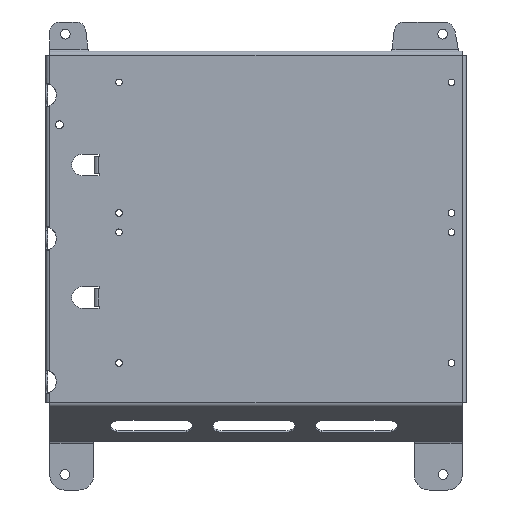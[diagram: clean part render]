
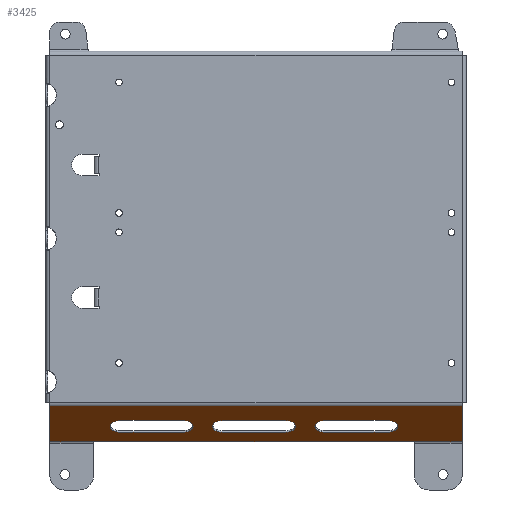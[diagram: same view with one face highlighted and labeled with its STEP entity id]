
A CAD part, front view. The second image highlights one B-rep face of the part: STEP entity #3425.
In plain terms, the highlighted planar face has unit normal (0, -0.602, -0.799).
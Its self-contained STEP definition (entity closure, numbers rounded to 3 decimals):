
#110=PLANE('',#3743);
#284=LINE('',#5351,#570);
#289=LINE('',#5365,#575);
#292=LINE('',#5375,#578);
#297=LINE('',#5389,#583);
#302=LINE('',#5407,#588);
#306=LINE('',#5418,#592);
#333=LINE('',#5513,#619);
#334=LINE('',#5515,#620);
#335=LINE('',#5516,#621);
#336=LINE('',#5518,#622);
#337=LINE('',#5520,#623);
#338=LINE('',#5521,#624);
#570=VECTOR('',#4325,10.);
#575=VECTOR('',#4338,10.);
#578=VECTOR('',#4349,10.);
#583=VECTOR('',#4362,10.);
#588=VECTOR('',#4381,10.);
#592=VECTOR('',#4393,10.);
#619=VECTOR('',#4494,10.);
#620=VECTOR('',#4495,10.);
#621=VECTOR('',#4496,10.);
#622=VECTOR('',#4497,10.);
#623=VECTOR('',#4498,10.);
#624=VECTOR('',#4499,10.);
#750=FACE_BOUND('',#1101,.T.);
#751=FACE_BOUND('',#1102,.T.);
#752=FACE_BOUND('',#1103,.T.);
#890=FACE_OUTER_BOUND('',#1100,.T.);
#1100=EDGE_LOOP('',(#2696,#2697,#2698,#2699,#2700,#2701));
#1101=EDGE_LOOP('',(#2702,#2703,#2704,#2705));
#1102=EDGE_LOOP('',(#2706,#2707,#2708,#2709));
#1103=EDGE_LOOP('',(#2710,#2711,#2712,#2713));
#1336=CIRCLE('',#3685,10.);
#1338=CIRCLE('',#3689,10.);
#1340=CIRCLE('',#3693,10.);
#1342=CIRCLE('',#3697,10.);
#1344=CIRCLE('',#3700,10.);
#1346=CIRCLE('',#3704,10.);
#1586=VERTEX_POINT('',#5349);
#1587=VERTEX_POINT('',#5350);
#1590=VERTEX_POINT('',#5358);
#1592=VERTEX_POINT('',#5364);
#1594=VERTEX_POINT('',#5373);
#1595=VERTEX_POINT('',#5374);
#1598=VERTEX_POINT('',#5382);
#1600=VERTEX_POINT('',#5388);
#1602=VERTEX_POINT('',#5397);
#1603=VERTEX_POINT('',#5398);
#1606=VERTEX_POINT('',#5406);
#1608=VERTEX_POINT('',#5412);
#1632=VERTEX_POINT('',#5482);
#1639=VERTEX_POINT('',#5511);
#1640=VERTEX_POINT('',#5512);
#1641=VERTEX_POINT('',#5514);
#1642=VERTEX_POINT('',#5517);
#1643=VERTEX_POINT('',#5519);
#1964=EDGE_CURVE('',#1586,#1587,#284,.T.);
#1968=EDGE_CURVE('',#1587,#1590,#1336,.T.);
#1971=EDGE_CURVE('',#1590,#1592,#289,.T.);
#1974=EDGE_CURVE('',#1592,#1586,#1338,.T.);
#1976=EDGE_CURVE('',#1594,#1595,#292,.T.);
#1980=EDGE_CURVE('',#1595,#1598,#1340,.T.);
#1983=EDGE_CURVE('',#1598,#1600,#297,.T.);
#1986=EDGE_CURVE('',#1600,#1594,#1342,.T.);
#1988=EDGE_CURVE('',#1602,#1603,#1344,.T.);
#1992=EDGE_CURVE('',#1606,#1602,#302,.T.);
#1995=EDGE_CURVE('',#1608,#1606,#1346,.T.);
#1998=EDGE_CURVE('',#1603,#1608,#306,.T.);
#2041=EDGE_CURVE('',#1639,#1640,#333,.T.);
#2042=EDGE_CURVE('',#1640,#1641,#334,.T.);
#2043=EDGE_CURVE('',#1641,#1632,#335,.T.);
#2044=EDGE_CURVE('',#1632,#1642,#336,.T.);
#2045=EDGE_CURVE('',#1643,#1642,#337,.T.);
#2046=EDGE_CURVE('',#1643,#1639,#338,.T.);
#2696=ORIENTED_EDGE('',*,*,#2041,.T.);
#2697=ORIENTED_EDGE('',*,*,#2042,.T.);
#2698=ORIENTED_EDGE('',*,*,#2043,.T.);
#2699=ORIENTED_EDGE('',*,*,#2044,.T.);
#2700=ORIENTED_EDGE('',*,*,#2045,.F.);
#2701=ORIENTED_EDGE('',*,*,#2046,.T.);
#2702=ORIENTED_EDGE('',*,*,#1964,.T.);
#2703=ORIENTED_EDGE('',*,*,#1968,.T.);
#2704=ORIENTED_EDGE('',*,*,#1971,.T.);
#2705=ORIENTED_EDGE('',*,*,#1974,.T.);
#2706=ORIENTED_EDGE('',*,*,#1976,.T.);
#2707=ORIENTED_EDGE('',*,*,#1980,.T.);
#2708=ORIENTED_EDGE('',*,*,#1983,.T.);
#2709=ORIENTED_EDGE('',*,*,#1986,.T.);
#2710=ORIENTED_EDGE('',*,*,#1988,.T.);
#2711=ORIENTED_EDGE('',*,*,#1998,.T.);
#2712=ORIENTED_EDGE('',*,*,#1995,.T.);
#2713=ORIENTED_EDGE('',*,*,#1992,.T.);
#3425=ADVANCED_FACE('',(#890,#750,#751,#752),#110,.F.);
#3685=AXIS2_PLACEMENT_3D('',#5359,#4331,#4332);
#3689=AXIS2_PLACEMENT_3D('',#5370,#4343,#4344);
#3693=AXIS2_PLACEMENT_3D('',#5383,#4355,#4356);
#3697=AXIS2_PLACEMENT_3D('',#5394,#4367,#4368);
#3700=AXIS2_PLACEMENT_3D('',#5399,#4373,#4374);
#3704=AXIS2_PLACEMENT_3D('',#5413,#4386,#4387);
#3743=AXIS2_PLACEMENT_3D('',#5510,#4492,#4493);
#4325=DIRECTION('',(1.,0.,0.));
#4331=DIRECTION('center_axis',(0.,0.602,
0.799));
#4332=DIRECTION('ref_axis',(0.,-0.799,0.602));
#4338=DIRECTION('',(-1.,0.,0.));
#4343=DIRECTION('center_axis',(0.,0.602,
0.799));
#4344=DIRECTION('ref_axis',(0.,0.799,-0.602));
#4349=DIRECTION('',(1.,0.,0.));
#4355=DIRECTION('center_axis',(0.,0.602,
0.799));
#4356=DIRECTION('ref_axis',(0.,-0.799,0.602));
#4362=DIRECTION('',(-1.,0.,0.));
#4367=DIRECTION('center_axis',(0.,0.602,
0.799));
#4368=DIRECTION('ref_axis',(0.,0.799,-0.602));
#4373=DIRECTION('center_axis',(0.,0.602,
0.799));
#4374=DIRECTION('ref_axis',(0.,0.799,-0.602));
#4381=DIRECTION('',(-1.,0.,0.));
#4386=DIRECTION('center_axis',(0.,0.602,
0.799));
#4387=DIRECTION('ref_axis',(0.,-0.799,0.602));
#4393=DIRECTION('',(1.,0.,0.));
#4492=DIRECTION('center_axis',(0.,0.602,
0.799));
#4493=DIRECTION('ref_axis',(0.,-0.799,0.602));
#4494=DIRECTION('',(0.,0.799,-0.602));
#4495=DIRECTION('',(1.,0.,0.));
#4496=DIRECTION('',(1.,0.,0.));
#4497=DIRECTION('',(1.,0.,0.));
#4498=DIRECTION('',(0.,0.799,-0.602));
#4499=DIRECTION('',(-1.,0.,0.));
#5349=CARTESIAN_POINT('',(-261.253,47.78,85.327));
#5350=CARTESIAN_POINT('',(-196.253,47.78,85.327));
#5351=CARTESIAN_POINT('',(-265.003,47.78,85.327));
#5358=CARTESIAN_POINT('',(-196.253,63.752,73.29));
#5359=CARTESIAN_POINT('Origin',(-196.253,55.766,79.308));
#5364=CARTESIAN_POINT('',(-261.253,63.752,73.29));
#5365=CARTESIAN_POINT('',(-297.503,63.752,73.29));
#5370=CARTESIAN_POINT('Origin',(-261.253,55.766,79.308));
#5373=CARTESIAN_POINT('',(-366.253,47.78,85.327));
#5374=CARTESIAN_POINT('',(-301.253,47.78,85.327));
#5375=CARTESIAN_POINT('',(-317.503,47.78,85.327));
#5382=CARTESIAN_POINT('',(-301.253,63.752,73.29));
#5383=CARTESIAN_POINT('Origin',(-301.253,55.766,79.308));
#5388=CARTESIAN_POINT('',(-366.253,63.752,73.29));
#5389=CARTESIAN_POINT('',(-350.003,63.752,73.29));
#5394=CARTESIAN_POINT('Origin',(-366.253,55.766,79.308));
#5397=CARTESIAN_POINT('',(-471.253,63.752,73.29));
#5398=CARTESIAN_POINT('',(-471.253,47.78,85.327));
#5399=CARTESIAN_POINT('Origin',(-471.253,55.766,79.308));
#5406=CARTESIAN_POINT('',(-406.253,63.752,73.29));
#5407=CARTESIAN_POINT('',(-402.503,63.752,73.29));
#5412=CARTESIAN_POINT('',(-406.253,47.78,85.327));
#5413=CARTESIAN_POINT('Origin',(-406.253,55.766,79.308));
#5418=CARTESIAN_POINT('',(-370.003,47.78,85.327));
#5482=CARTESIAN_POINT('',(-169.253,76.53,63.661));
#5510=CARTESIAN_POINT('Origin',(-333.753,51.573,82.468));
#5511=CARTESIAN_POINT('',(-543.148,27.982,100.245));
#5512=CARTESIAN_POINT('',(-543.148,76.53,63.661));
#5513=CARTESIAN_POINT('',(-543.148,58.137,77.522));
#5514=CARTESIAN_POINT('',(-498.253,76.53,63.661));
#5515=CARTESIAN_POINT('',(-227.003,76.53,63.661));
#5516=CARTESIAN_POINT('',(-227.003,76.53,63.661));
#5517=CARTESIAN_POINT('',(-120.253,76.53,63.661));
#5518=CARTESIAN_POINT('',(-227.003,76.53,63.661));
#5519=CARTESIAN_POINT('',(-120.253,27.982,100.245));
#5520=CARTESIAN_POINT('',(-120.253,27.982,100.245));
#5521=CARTESIAN_POINT('',(-333.753,27.982,100.245));
